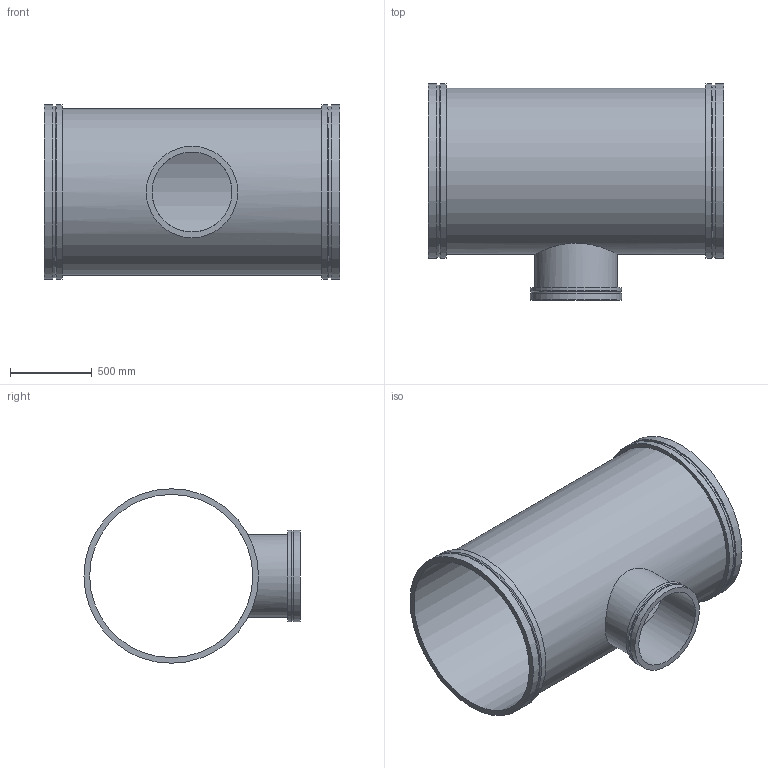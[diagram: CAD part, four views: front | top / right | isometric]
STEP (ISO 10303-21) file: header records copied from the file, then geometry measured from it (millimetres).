
FILE_DESCRIPTION(/* description */ ('VIC REDUCING TEE No W025 VR','CAx-IF Rec.Pracs.---Representation and Presentation of Product Manufacturing Information (PMI)---4.0---2014-10-13'),/* implementation_level */ '2;1');
FILE_NAME(/* name */ 'C:\Users\kkamble\AppData\Roaming\Autodesk\ApplicationPlugins\Back Up\Victaulic_Vic-Ring_Tee Reducing_No W25 VR (AGR)\Victaulic_Vic-Ring_Tee Reducing_No W25 VR (AGR)_40.0x20.0 (1000x500).stp',/* time_stamp */ '2020-09-10T11:55:28+05:00',/* author */ ('mchristi'),/* organization */ ('Victaulic'),/* preprocessor_version */ 'ST-DEVELOPER v17.2',/* originating_system */ 'Autodesk Inventor 2019',/* authorisation */ '');
FILE_SCHEMA (('AP242_MANAGED_MODEL_BASED_3D_ENGINEERING_MIM_LF { 1 0 10303 442 1 1 4 }'));
Length unit declared in the file: inch
Products named in the file (1): W25 VR-40.0x20.0
Bounding box: 1803.4 x 1320.8 x 1066.8 mm (x, y, z)
Volume: 77233844.2 mm3; surface area: 12622765.4 mm2
Topology: 1 solids, 1 shells, 25 faces, 68 edges, 52 vertices
Faces by surface type: cylinder 13, plane 9, cone 3
Full cylindrical faces by diameter (mm): 488.95 x1, 508 x1, 546.1 x1, 558.8 x2, 996.95 x1, 1016 x1, 1050.925 x2, 1066.8 x4
Entity records: 1251 total; most frequent: CARTESIAN_POINT 407, DIRECTION 190, ORIENTED_EDGE 136, AXIS2_PLACEMENT_3D 87, EDGE_CURVE 68, VERTEX_POINT 52, CIRCLE 48, EDGE_LOOP 36
